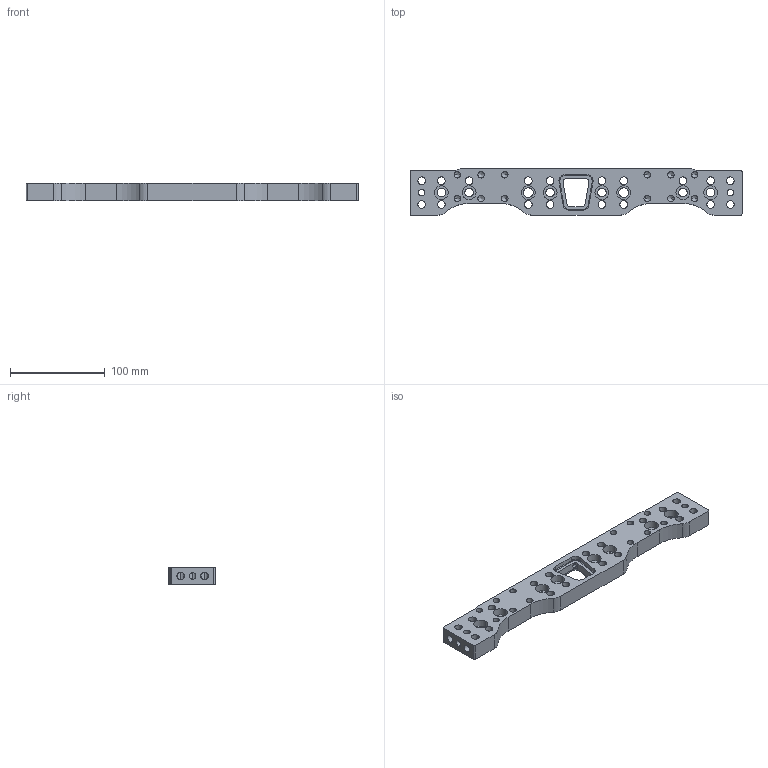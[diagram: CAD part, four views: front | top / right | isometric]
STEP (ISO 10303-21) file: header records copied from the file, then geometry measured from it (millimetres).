
FILE_DESCRIPTION (( 'STEP AP214' ), '1' );
FILE_NAME ('ABTS-1066 (CATALOG MODEL).STEP', '2026-08-03T22:07:42', ( '' ), ( '' ), 'SwSTEP 2.0', 'SolidWorks 2025', '' );
FILE_SCHEMA (( 'AUTOMOTIVE_DESIGN' ));
Length unit declared in the file: inch
Products named in the file (1): ABTS-1066 (CATALOG MODEL)
Bounding box: 349.6 x 48.72 x 18 mm (x, y, z)
Volume: 211890.2 mm3; surface area: 62004.7 mm2
Topology: 1 solids, 1 shells, 286 faces, 771 edges, 470 vertices
Faces by surface type: cylinder 176, cone 58, plane 42, torus 10
Entity records: 9671 total; most frequent: CARTESIAN_POINT 2314, DIRECTION 1618, ORIENTED_EDGE 1470, EDGE_CURVE 735, AXIS2_PLACEMENT_3D 654, VERTEX_POINT 470, EDGE_LOOP 393, CIRCLE 367
